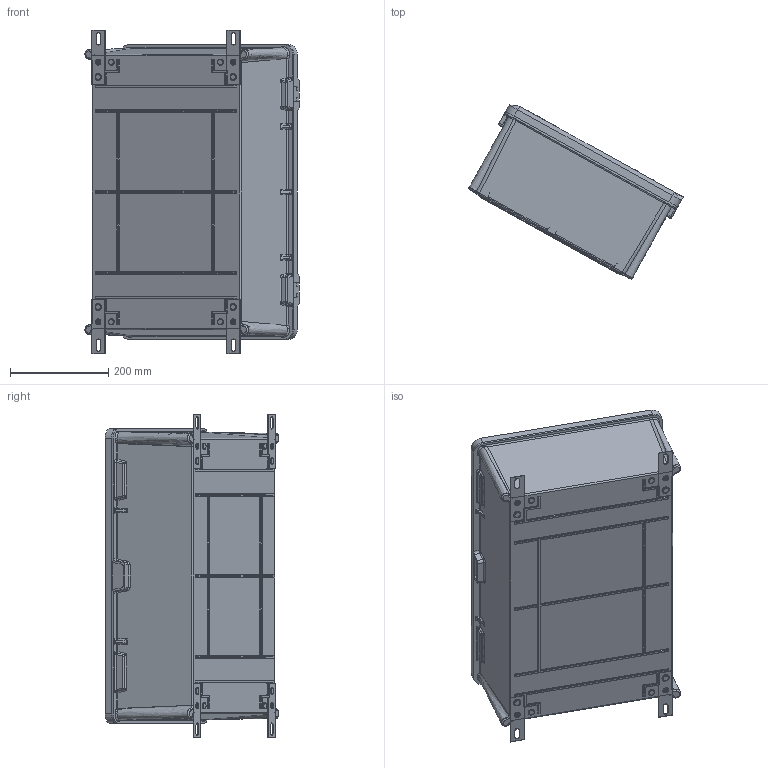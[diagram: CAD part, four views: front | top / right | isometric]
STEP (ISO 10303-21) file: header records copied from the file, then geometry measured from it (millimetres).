
FILE_DESCRIPTION(('TFLEX Exchange Step'),'2;1');
FILE_NAME('X2\0422\X0\406020Б-00.stp', '2022-11-08T11:21:33+03:00',('melekhin'),('Unknown organisation'),'TFLEX Exchange 2019.0','T-FLEX CAD','Unknown authorisation');
FILE_SCHEMA( ('AUTOMOTIVE_DESIGN { 1 0 10303 214 1 1 1 1 }') );
Length unit declared in the file: millimetre
Products named in the file (11): Панель монтажная металлическая 40х60 (Т); <Корпуса (Т)>Корпуса Et:33; <Корпуса (Т)>Корпуса Et:28; <Корпуса (Т)>Корпуса Et:27; <Корпуса (Т)>Корпуса Et:26; <Корпуса (Т)>Корпуса Et:25; <Корпуса (Т)>Корпуса Et:24; <Корпуса (Т)>Корпуса Et:23; <Корпуса (Т)>Корпуса Et:4; <Корпуса (Т)>Корпуса Et; BUFFER:000000EDD99FC6F0 
Assembly tree (26 placements, depth 3):
  BUFFER:000000EDD99FC6F0 
    <Корпуса (Т)>Корпуса Et
      Панель монтажная металлическая 40х60 (Т)
      <Корпуса (Т)>Корпуса Et:33  x8
      <Корпуса (Т)>Корпуса Et:28  x2
      <Корпуса (Т)>Корпуса Et:27  x2
      <Корпуса (Т)>Корпуса Et:26  x2
      <Корпуса (Т)>Корпуса Et:25  x2
      <Корпуса (Т)>Корпуса Et:24  x2
      <Корпуса (Т)>Корпуса Et:23  x2
      <Корпуса (Т)>Корпуса Et:4  x4
Bounding box: 435.49 x 353.27 x 658 mm (x, y, z)
Volume: 4496774 mm3; surface area: 2163431.4 mm2
Topology: 37 solids, 37 shells, 2004 faces, 5182 edges, 3230 vertices
Faces by surface type: plane 1035, cylinder 482, bspline 261, torus 93, cone 82, sphere 51
Full cylindrical faces by diameter (mm): 3 x4, 3.999 x1, 4 x11, 5.5 x4, 6 x4, 7 x4, 9.9 x2, 10.05 x2, 12 x8, 12.55 x2, 13 x2, 13.001 x2, 13.5 x2, 15 x4, 15.67 x2, 16 x2, 16.25 x2, 16.45 x2, 19.6 x2, 22 x2, 30 x2
Entity records: 97550 total; most frequent: CARTESIAN_POINT 58918, ORIENTED_EDGE 8350, DIRECTION 7280, EDGE_CURVE 4175, VERTEX_POINT 2642, AXIS2_PLACEMENT_3D 2514, VECTOR 2252, LINE 2252
